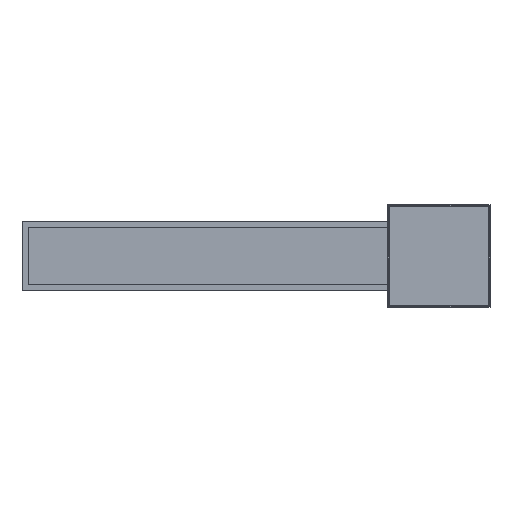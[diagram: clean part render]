
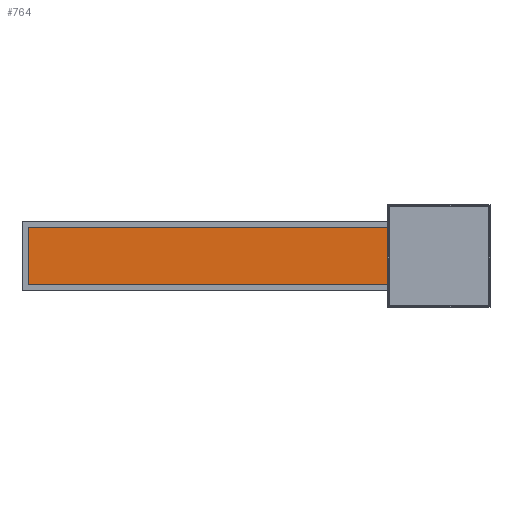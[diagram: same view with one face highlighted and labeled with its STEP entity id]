
A CAD part, top view. The second image highlights one B-rep face of the part: STEP entity #764.
In plain terms, the highlighted planar face has unit normal (0, 0, 1).
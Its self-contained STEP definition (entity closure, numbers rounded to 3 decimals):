
#42=PLANE('',#842);
#90=FACE_OUTER_BOUND('',#138,.T.);
#138=EDGE_LOOP('',(#599,#600,#601,#602));
#187=LINE('',#1123,#285);
#191=LINE('',#1131,#289);
#194=LINE('',#1137,#292);
#197=LINE('',#1142,#295);
#285=VECTOR('',#921,304.8);
#289=VECTOR('',#927,304.8);
#292=VECTOR('',#932,304.8);
#295=VECTOR('',#937,304.8);
#385=VERTEX_POINT('',#1121);
#386=VERTEX_POINT('',#1122);
#389=VERTEX_POINT('',#1130);
#391=VERTEX_POINT('',#1136);
#459=EDGE_CURVE('',#385,#386,#187,.T.);
#463=EDGE_CURVE('',#389,#385,#191,.T.);
#466=EDGE_CURVE('',#391,#389,#194,.T.);
#469=EDGE_CURVE('',#386,#391,#197,.T.);
#599=ORIENTED_EDGE('',*,*,#469,.T.);
#600=ORIENTED_EDGE('',*,*,#466,.T.);
#601=ORIENTED_EDGE('',*,*,#463,.T.);
#602=ORIENTED_EDGE('',*,*,#459,.T.);
#764=ADVANCED_FACE('',(#90),#42,.T.);
#842=AXIS2_PLACEMENT_3D('',#1145,#941,#942);
#921=DIRECTION('',(0.,1.,0.));
#927=DIRECTION('',(1.,0.,0.));
#932=DIRECTION('',(0.,-1.,0.));
#937=DIRECTION('',(-1.,0.,0.));
#941=DIRECTION('center_axis',(0.,0.,1.));
#942=DIRECTION('ref_axis',(-1.,0.,0.));
#1121=CARTESIAN_POINT('',(-122.5,-67.5,0.));
#1122=CARTESIAN_POINT('',(-122.5,67.5,0.));
#1123=CARTESIAN_POINT('',(-122.5,-67.5,0.));
#1130=CARTESIAN_POINT('',(-984.,-67.5,0.));
#1131=CARTESIAN_POINT('',(-984.,-67.5,0.));
#1136=CARTESIAN_POINT('',(-984.,67.5,0.));
#1137=CARTESIAN_POINT('',(-984.,67.5,0.));
#1142=CARTESIAN_POINT('',(-122.5,67.5,0.));
#1145=CARTESIAN_POINT('Origin',(-984.,67.5,0.));
